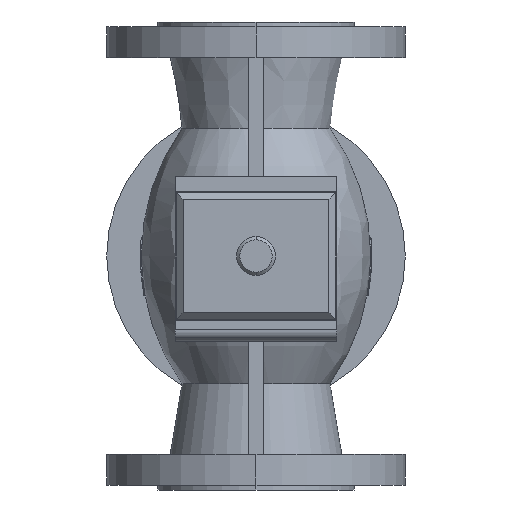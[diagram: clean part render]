
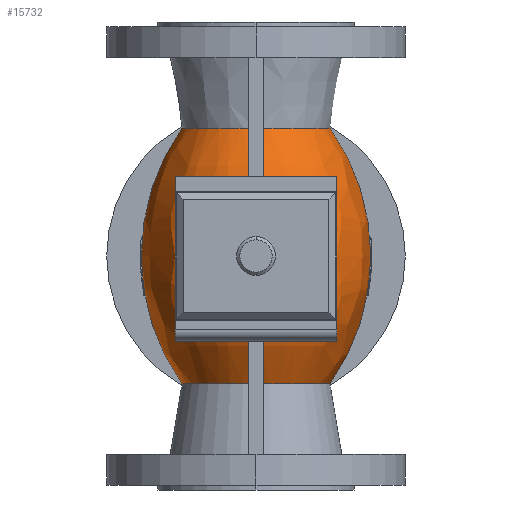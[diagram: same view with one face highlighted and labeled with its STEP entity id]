
A CAD part, front view. The second image highlights one B-rep face of the part: STEP entity #15732.
In plain terms, the highlighted free-form (B-spline) face has degree [2, 2] with [3, 9] control points.
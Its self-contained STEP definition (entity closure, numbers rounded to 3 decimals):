
#15641=CARTESIAN_POINT('',(-45.885,0.,224.307));
#15642=CARTESIAN_POINT('',(-101.82,0.,145.));
#15643=CARTESIAN_POINT('',(-45.885,0.,65.693));
#15644=CARTESIAN_POINT('',(-45.885,-45.885,224.307));
#15645=CARTESIAN_POINT('',(-101.82,-101.82,145.0));
#15646=CARTESIAN_POINT('',(-45.885,-45.885,65.693));
#15647=CARTESIAN_POINT('',(0.,-45.885,224.307));
#15648=CARTESIAN_POINT('',(0.,-101.82,145.));
#15649=CARTESIAN_POINT('',(0.,-45.885,65.693));
#15650=CARTESIAN_POINT('',(45.885,-45.885,224.307));
#15651=CARTESIAN_POINT('',(101.82,-101.82,145.));
#15652=CARTESIAN_POINT('',(45.885,-45.885,65.693));
#15653=CARTESIAN_POINT('',(45.885,0.,224.307));
#15654=CARTESIAN_POINT('',(101.82,0.,145.));
#15655=CARTESIAN_POINT('',(45.885,0.,65.693));
#15656=CARTESIAN_POINT('',(45.885,45.885,224.307));
#15657=CARTESIAN_POINT('',(101.82,101.82,145.));
#15658=CARTESIAN_POINT('',(45.885,45.885,65.693));
#15659=CARTESIAN_POINT('',(0.,45.885,224.307));
#15660=CARTESIAN_POINT('',(0.,101.82,145.));
#15661=CARTESIAN_POINT('',(0.,45.885,65.693));
#15662=CARTESIAN_POINT('',(-45.885,45.885,224.307));
#15663=CARTESIAN_POINT('',(-101.82,101.82,145.));
#15664=CARTESIAN_POINT('',(-45.885,45.885,65.693));
#15665=CARTESIAN_POINT('',(-45.885,0.,224.307));
#15666=CARTESIAN_POINT('',(-101.82,0.,145.));
#15667=CARTESIAN_POINT('',(-45.885,0.,65.693));
#15675=(BOUNDED_SURFACE()B_SPLINE_SURFACE(2,2,((#15641,#15644,#15647,#15650,#15653,#15656,#15659,#15662,#15665),(#15642,#15645,#15648,#15651,#15654,#15657,#15660,#15663,#15666),(#15643,#15646,#15649,#15652,#15655,#15658,#15661,#15664,#15667)),.UNSPECIFIED.,.F.,.T.,.U.)B_SPLINE_SURFACE_WITH_KNOTS((3,3),(3,2,2,2,3),(-0.614,0.614),(0.0,1.571,3.142,4.712,6.283),.UNSPECIFIED.)GEOMETRIC_REPRESENTATION_ITEM()RATIONAL_B_SPLINE_SURFACE(((1.0,0.707,1.0,0.707,1.0,0.707,1.0,0.707,1.0),(0.817,0.578,0.817,0.578,0.817,0.578,0.817,0.578,0.817),(1.0,0.707,1.0,0.707,1.0,0.707,1.0,0.707,1.0)))REPRESENTATION_ITEM('')SURFACE());
#15676=CARTESIAN_POINT('',(45.885,0.,224.307));
#15677=VERTEX_POINT('',#15676);
#15678=CARTESIAN_POINT('',(45.885,0.,65.693));
#15679=VERTEX_POINT('',#15678);
#15680=CARTESIAN_POINT('',(-66.56,0.,145.));
#15681=DIRECTION('',(0.0,1.0,0.0));
#15682=DIRECTION('',(1.0,0.0,0.0));
#15683=AXIS2_PLACEMENT_3D('',#15680,#15681,#15682);
#15684=CIRCLE('',#15683,137.6);
#15685=EDGE_CURVE('',#15677,#15679,#15684,.T.);
#15686=ORIENTED_EDGE('',*,*,#15685,.F.);
#15687=CARTESIAN_POINT('',(0.0,-45.885,224.307));
#15688=VERTEX_POINT('',#15687);
#15689=CARTESIAN_POINT('',(0.0,0.,224.307));
#15690=DIRECTION('',(0.0,0.0,-1.0));
#15691=DIRECTION('',(0.0,-1.0,0.0));
#15692=AXIS2_PLACEMENT_3D('',#15689,#15690,#15691);
#15693=CIRCLE('',#15692,45.885);
#15694=EDGE_CURVE('',#15677,#15688,#15693,.T.);
#15695=ORIENTED_EDGE('',*,*,#15694,.T.);
#15696=CARTESIAN_POINT('',(-45.885,0.,224.307));
#15697=VERTEX_POINT('',#15696);
#15698=CARTESIAN_POINT('',(0.0,0.,224.307));
#15699=DIRECTION('',(0.0,0.0,-1.0));
#15700=DIRECTION('',(0.0,-1.0,0.0));
#15701=AXIS2_PLACEMENT_3D('',#15698,#15699,#15700);
#15702=CIRCLE('',#15701,45.885);
#15703=EDGE_CURVE('',#15688,#15697,#15702,.T.);
#15704=ORIENTED_EDGE('',*,*,#15703,.T.);
#15705=CARTESIAN_POINT('',(-45.885,0.,65.693));
#15706=VERTEX_POINT('',#15705);
#15707=CARTESIAN_POINT('',(66.56,0.,145.));
#15708=DIRECTION('',(0.0,1.0,0.0));
#15709=DIRECTION('',(-1.0,0.0,0.0));
#15710=AXIS2_PLACEMENT_3D('',#15707,#15708,#15709);
#15711=CIRCLE('',#15710,137.6);
#15712=EDGE_CURVE('',#15706,#15697,#15711,.T.);
#15713=ORIENTED_EDGE('',*,*,#15712,.F.);
#15714=CARTESIAN_POINT('',(0.0,-45.885,65.693));
#15715=VERTEX_POINT('',#15714);
#15716=CARTESIAN_POINT('',(0.0,0.0,65.693));
#15717=DIRECTION('',(0.0,0.0,-1.0));
#15718=DIRECTION('',(0.0,-1.0,0.0));
#15719=AXIS2_PLACEMENT_3D('',#15716,#15717,#15718);
#15720=CIRCLE('',#15719,45.885);
#15721=EDGE_CURVE('',#15715,#15706,#15720,.T.);
#15722=ORIENTED_EDGE('',*,*,#15721,.F.);
#15723=CARTESIAN_POINT('',(0.0,0.0,65.693));
#15724=DIRECTION('',(0.0,0.0,-1.0));
#15725=DIRECTION('',(0.0,-1.0,0.0));
#15726=AXIS2_PLACEMENT_3D('',#15723,#15724,#15725);
#15727=CIRCLE('',#15726,45.885);
#15728=EDGE_CURVE('',#15679,#15715,#15727,.T.);
#15729=ORIENTED_EDGE('',*,*,#15728,.F.);
#15730=EDGE_LOOP('',(#15686,#15695,#15704,#15713,#15722,#15729));
#15731=FACE_OUTER_BOUND('',#15730,.T.);
#15732=ADVANCED_FACE('',(#15731),#15675,.T.);
